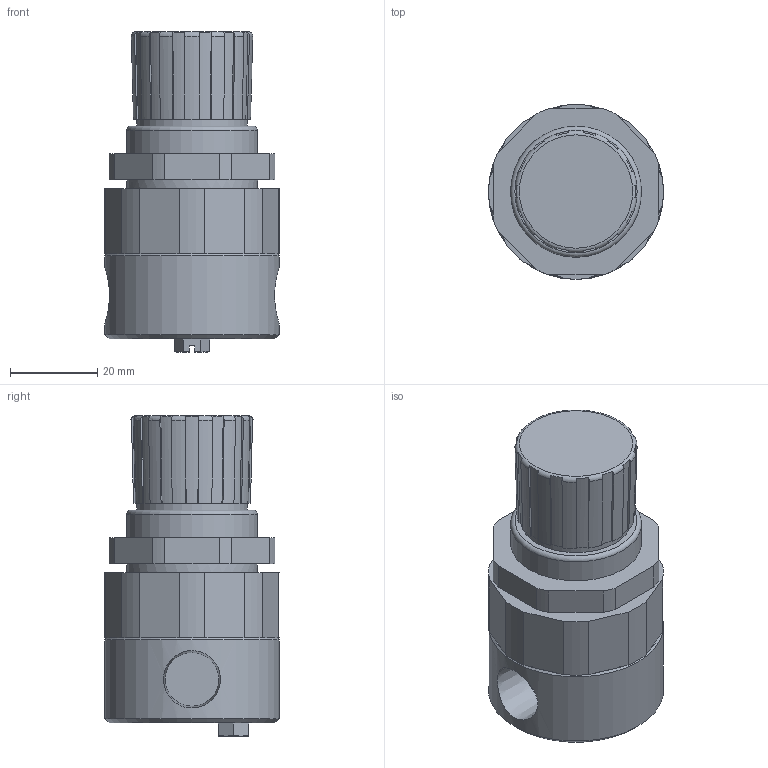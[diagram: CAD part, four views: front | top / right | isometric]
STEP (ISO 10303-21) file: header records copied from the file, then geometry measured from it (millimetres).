
FILE_DESCRIPTION(/* description */ ('Unknown'),/* implementation_level */ '2;1');
FILE_NAME(/* name */ 'OP232-RF-001△2 RF-S-4-2',/* time_stamp */ '2026-03-31T19:03:22+09:00',/* author */ ('Unknown'),/* organization */ ('Unknown'),/* preprocessor_version */ 'ST-DEVELOPER v18.102',/* originating_system */ 'Solid Edge',/* authorisation */ 'Unknown');
FILE_SCHEMA (('AUTOMOTIVE_DESIGN {1 0 10303 214 3 1 1}'));
Length unit declared in the file: millimetre
Products named in the file (1): OP232-RF-001△2 RF-S-4-2ｳ%2
Bounding box: 40 x 40 x 73.3 mm (x, y, z)
Volume: 65652.7 mm3; surface area: 12210 mm2
Topology: 1 solids, 1 shells, 142 faces, 377 edges, 244 vertices
Faces by surface type: plane 80, cone 38, cylinder 22, torus 2
Full cylindrical faces by diameter (mm): 12.301 x2, 25.4 x1, 30 x2, 40 x1
Entity records: 5374 total; most frequent: CARTESIAN_POINT 819, DIRECTION 778, ORIENTED_EDGE 714, EDGE_CURVE 357, AXIS2_PLACEMENT_3D 296, VERTEX_POINT 237, LINE 186, VECTOR 186
